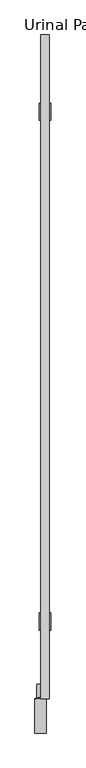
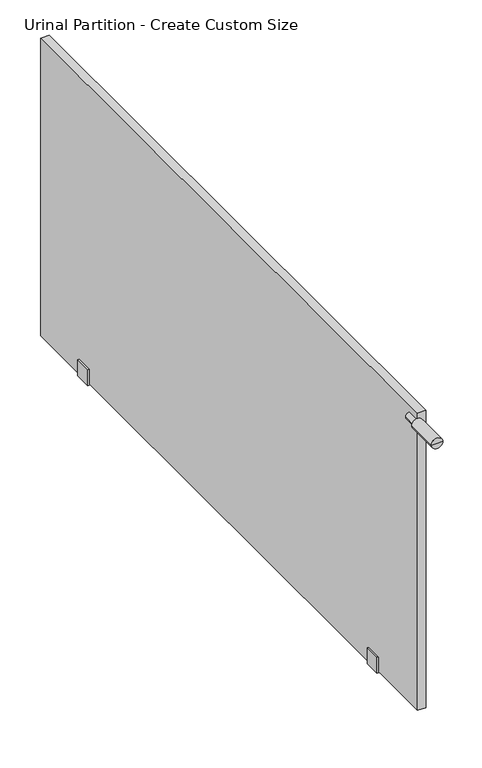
"""IFC4 building model written with IfcOpenShell, lengths in millimetres: proxy geometry, Urinal-Partition_Ironwood-Mfg : Urinal Partition - Create Custom Size."""

from ifc_helpers import new_model, si_unit, frame, origin, place, context, project, spatial, polyline, circle_curve, outline, extrude, source, transform, mapped, element, save
from ifc_brep_helpers import plane_surface, cylinder_surface, revolved_surface, advanced_brep


def urinal_partition_create_custom_size_ba70e870(model_context):
    return source(origin(), model_context, "Body", "SolidModel", [
        advanced_brep(
        [(-9.525, 0.0, 685.8), (3.175, 0.0, 685.8), (-22.225, 0.0, 685.8), (3.175, 76.2, 685.8), (-22.225, 76.2, 685.8), (-1.0583333, 78.1740358, 685.8), (-17.9916667, 78.1740358, 685.8), (-1.0583333, 107.95, 685.8), (-17.9916667, 107.95, 685.8), (-9.525, 107.95, 685.8)],
        [
            (0, 1),
            (1, 2, circle_curve(frame((-9.525, 0.0, 685.8), z_axis=(0.0, -1.0, 0.0), x_axis=(-1.0, 0.0, 0.0)), 12.7)),
            (2, 0),
            (2, 1, circle_curve(frame((-9.525, 0.0, 685.8), z_axis=(0.0, -1.0, 0.0), x_axis=(-1.0, 0.0, 0.0)), 12.7)),
            (1, 3),
            (3, 4, circle_curve(frame((-9.525, 76.2, 685.8), z_axis=(0.0, -1.0, 0.0), x_axis=(-1.0, 0.0, 0.0)), 12.7)),
            (4, 2),
            (4, 3, circle_curve(frame((-9.525, 76.2, 685.8), z_axis=(0.0, -1.0, 0.0), x_axis=(-1.0, 0.0, 0.0)), 12.7)),
            (3, 5),
            (5, 6, circle_curve(frame((-9.525, 78.1740358, 685.8), z_axis=(0.0, -1.0, 0.0), x_axis=(-1.0, 0.0, 0.0)), 8.4666667)),
            (6, 4),
            (6, 5, circle_curve(frame((-9.525, 78.1740358, 685.8), z_axis=(0.0, -1.0, 0.0), x_axis=(-1.0, 0.0, 0.0)), 8.4666667)),
            (5, 7),
            (7, 8, circle_curve(frame((-9.525, 107.95, 685.8), z_axis=(0.0, -1.0, 0.0), x_axis=(-1.0, 0.0, 0.0)), 8.4666667)),
            (8, 6),
            (8, 7, circle_curve(frame((-9.525, 107.95, 685.8), z_axis=(0.0, -1.0, 0.0), x_axis=(-1.0, 0.0, 0.0)), 8.4666667)),
            (7, 9),
            (9, 8),
        ],
        [
            plane_surface(frame((-9.525, 0.0, 685.8), z_axis=(0.0, -1.0, 0.0), x_axis=(-1.0, 0.0, 0.0))),
            cylinder_surface(frame((-9.525, 107.95, 685.8), z_axis=(0.0, -1.0, 0.0), x_axis=(-1.0, 0.0, 0.0)), 12.7),
            revolved_surface(polyline([(-17.9916667, 78.1740358, 685.8), (-22.225, 76.2, 685.8)]), (-9.525, 107.95, 685.8), (0.0, -1.0, 0.0)),
            cylinder_surface(frame((-9.525, 107.95, 685.8), z_axis=(0.0, -1.0, 0.0), x_axis=(-1.0, 0.0, 0.0)), 8.4666667),
            plane_surface(frame((-9.525, 107.95, 685.8), z_axis=(0.0, 1.0, 0.0), x_axis=(-1.0, 0.0, 0.0))),
        ],
        [
            (0, [[1, 2, 3]]),
            (0, [[-3, 4, -1]]),
            (1, [[5, 6, 7, -2]]),
            (1, [[-7, 8, -5, -4]]),
            (2, [[9, 10, 11, -6]]),
            (2, [[-11, 12, -9, -8]]),
            (3, [[13, 14, 15, -10]]),
            (3, [[-15, 16, -13, -12]]),
            (4, [[17, 18, -14]]),
            (4, [[-18, -17, -16]]),
        ],
    ),
        extrude(outline(polyline([(38.1, 9.525), (3.175, 9.525), (3.175, -9.525), (38.1, -9.525), (38.1, -12.7), (0.0, -12.7), (0.0, 12.7), (38.1, 12.7), (38.1, 9.525)])), frame((0.0, 1358.9, 0.0), z_axis=(0.0, 1.0, 0.0), x_axis=(0.0, 0.0, 1.0)), (0.0, 0.0, 1.0), 38.1),
        extrude(outline(polyline([(38.1, 9.525), (3.175, 9.525), (3.175, -9.525), (38.1, -9.525), (38.1, -12.7), (0.0, -12.7), (0.0, 12.7), (38.1, 12.7), (38.1, 9.525)])), frame((0.0, 228.6, 0.0), z_axis=(0.0, 1.0, 0.0), x_axis=(0.0, 0.0, 1.0)), (0.0, 0.0, 1.0), 38.1),
        extrude(outline(polyline([(-9.525, 76.2), (-9.525, 1548.5614427), (9.525, 1548.5614427), (9.525, 76.2), (-9.525, 76.2)])), frame((0.0, 0.0, 3.175), z_axis=(0.0, 0.0, 1.0), x_axis=(1.0, 0.0, 0.0)), (0.0, 0.0, 1.0), 708.025),
    ])


if __name__ == "__main__":
    model = new_model("IFC4")
    model_context = context("Model", 3, world=origin())
    ifc_project = project(units=[si_unit("LENGTHUNIT", "METRE", prefix="MILLI")], contexts=[model_context])
    site = spatial("IfcSite", under=ifc_project)
    building = spatial("IfcBuilding", under=site)
    placement = place(None, origin())
    urinal_partition_create_custom_size_shape = urinal_partition_create_custom_size_ba70e870(model_context)
    element("IfcBuildingElementProxy", 1, Name="Urinal-Partition_Ironwood-Mfg : Urinal Partition - Create Custom Size", ObjectType="Urinal-Partition_Ironwood-Mfg : Urinal Partition - Create Custom Size", at=placement, inside=building, context=model_context, shape_type="MappedRepresentation", body=[
        mapped(urinal_partition_create_custom_size_shape, transform((0.0, 0.0, 0.0), x_axis=(1.0, 0.0, 0.0), y_axis=(0.0, 1.0, 0.0), z_axis=(0.0, 0.0, 1.0))),
    ])
    save(model, "model.ifc")
